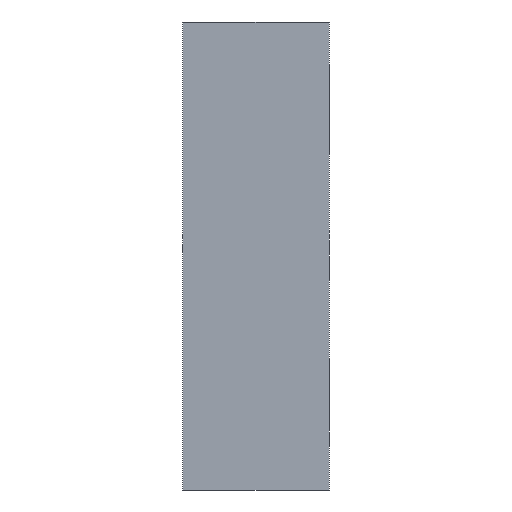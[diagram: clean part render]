
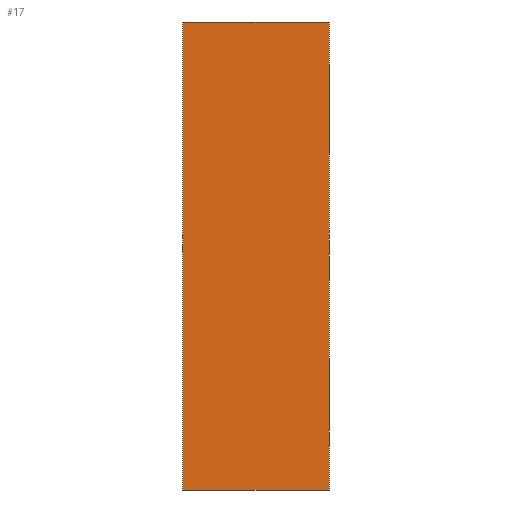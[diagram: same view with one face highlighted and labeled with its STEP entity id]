
A CAD part, left-side view. The second image highlights one B-rep face of the part: STEP entity #17.
In plain terms, the highlighted planar face has unit normal (-1, 0, 0).
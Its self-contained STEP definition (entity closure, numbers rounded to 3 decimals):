
#17 = ADVANCED_FACE('',(#18),#32,.F.);
#18 = FACE_BOUND('',#19,.F.);
#19 = EDGE_LOOP('',(#20,#55,#83,#111));
#20 = ORIENTED_EDGE('',*,*,#21,.F.);
#21 = EDGE_CURVE('',#22,#24,#26,.T.);
#22 = VERTEX_POINT('',#23);
#23 = CARTESIAN_POINT('',(-24.,-10.,-16.));
#24 = VERTEX_POINT('',#25);
#25 = CARTESIAN_POINT('',(-24.,-10.,16.));
#26 = SURFACE_CURVE('',#27,(#31,#43),.PCURVE_S1.);
#27 = LINE('',#28,#29);
#28 = CARTESIAN_POINT('',(-24.,-10.,-16.));
#29 = VECTOR('',#30,1.);
#30 = DIRECTION('',(0.,0.,1.));
#31 = PCURVE('',#32,#37);
#32 = PLANE('',#33);
#33 = AXIS2_PLACEMENT_3D('',#34,#35,#36);
#34 = CARTESIAN_POINT('',(-24.,-10.,-16.));
#35 = DIRECTION('',(1.,0.,0.));
#36 = DIRECTION('',(0.,0.,1.));
#37 = DEFINITIONAL_REPRESENTATION('',(#38),#42);
#38 = LINE('',#39,#40);
#39 = CARTESIAN_POINT('',(0.,0.));
#40 = VECTOR('',#41,1.);
#41 = DIRECTION('',(1.,0.));
#42 = ( GEOMETRIC_REPRESENTATION_CONTEXT(2) 
PARAMETRIC_REPRESENTATION_CONTEXT() REPRESENTATION_CONTEXT('2D SPACE',''
  ) );
#43 = PCURVE('',#44,#49);
#44 = PLANE('',#45);
#45 = AXIS2_PLACEMENT_3D('',#46,#47,#48);
#46 = CARTESIAN_POINT('',(-24.,-10.,-16.));
#47 = DIRECTION('',(0.,1.,0.));
#48 = DIRECTION('',(0.,0.,1.));
#49 = DEFINITIONAL_REPRESENTATION('',(#50),#54);
#50 = LINE('',#51,#52);
#51 = CARTESIAN_POINT('',(0.,0.));
#52 = VECTOR('',#53,1.);
#53 = DIRECTION('',(1.,0.));
#54 = ( GEOMETRIC_REPRESENTATION_CONTEXT(2) 
PARAMETRIC_REPRESENTATION_CONTEXT() REPRESENTATION_CONTEXT('2D SPACE',''
  ) );
#55 = ORIENTED_EDGE('',*,*,#56,.F.);
#56 = EDGE_CURVE('',#57,#22,#59,.T.);
#57 = VERTEX_POINT('',#58);
#58 = CARTESIAN_POINT('',(-24.,0.,-16.));
#59 = SURFACE_CURVE('',#60,(#64,#71),.PCURVE_S1.);
#60 = LINE('',#61,#62);
#61 = CARTESIAN_POINT('',(-24.,0.,-16.));
#62 = VECTOR('',#63,1.);
#63 = DIRECTION('',(0.,-1.,0.));
#64 = PCURVE('',#32,#65);
#65 = DEFINITIONAL_REPRESENTATION('',(#66),#70);
#66 = LINE('',#67,#68);
#67 = CARTESIAN_POINT('',(0.,-10.));
#68 = VECTOR('',#69,1.);
#69 = DIRECTION('',(0.,1.));
#70 = ( GEOMETRIC_REPRESENTATION_CONTEXT(2) 
PARAMETRIC_REPRESENTATION_CONTEXT() REPRESENTATION_CONTEXT('2D SPACE',''
  ) );
#71 = PCURVE('',#72,#77);
#72 = PLANE('',#73);
#73 = AXIS2_PLACEMENT_3D('',#74,#75,#76);
#74 = CARTESIAN_POINT('',(-24.,-10.,-16.));
#75 = DIRECTION('',(0.,0.,1.));
#76 = DIRECTION('',(1.,0.,0.));
#77 = DEFINITIONAL_REPRESENTATION('',(#78),#82);
#78 = LINE('',#79,#80);
#79 = CARTESIAN_POINT('',(0.,10.));
#80 = VECTOR('',#81,1.);
#81 = DIRECTION('',(0.,-1.));
#82 = ( GEOMETRIC_REPRESENTATION_CONTEXT(2) 
PARAMETRIC_REPRESENTATION_CONTEXT() REPRESENTATION_CONTEXT('2D SPACE',''
  ) );
#83 = ORIENTED_EDGE('',*,*,#84,.T.);
#84 = EDGE_CURVE('',#57,#85,#87,.T.);
#85 = VERTEX_POINT('',#86);
#86 = CARTESIAN_POINT('',(-24.,0.,16.));
#87 = SURFACE_CURVE('',#88,(#92,#99),.PCURVE_S1.);
#88 = LINE('',#89,#90);
#89 = CARTESIAN_POINT('',(-24.,0.,-16.));
#90 = VECTOR('',#91,1.);
#91 = DIRECTION('',(0.,0.,1.));
#92 = PCURVE('',#32,#93);
#93 = DEFINITIONAL_REPRESENTATION('',(#94),#98);
#94 = LINE('',#95,#96);
#95 = CARTESIAN_POINT('',(0.,-10.));
#96 = VECTOR('',#97,1.);
#97 = DIRECTION('',(1.,0.));
#98 = ( GEOMETRIC_REPRESENTATION_CONTEXT(2) 
PARAMETRIC_REPRESENTATION_CONTEXT() REPRESENTATION_CONTEXT('2D SPACE',''
  ) );
#99 = PCURVE('',#100,#105);
#100 = PLANE('',#101);
#101 = AXIS2_PLACEMENT_3D('',#102,#103,#104);
#102 = CARTESIAN_POINT('',(-24.,0.,-16.));
#103 = DIRECTION('',(0.,1.,0.));
#104 = DIRECTION('',(0.,0.,1.));
#105 = DEFINITIONAL_REPRESENTATION('',(#106),#110);
#106 = LINE('',#107,#108);
#107 = CARTESIAN_POINT('',(0.,0.));
#108 = VECTOR('',#109,1.);
#109 = DIRECTION('',(1.,0.));
#110 = ( GEOMETRIC_REPRESENTATION_CONTEXT(2) 
PARAMETRIC_REPRESENTATION_CONTEXT() REPRESENTATION_CONTEXT('2D SPACE',''
  ) );
#111 = ORIENTED_EDGE('',*,*,#112,.F.);
#112 = EDGE_CURVE('',#24,#85,#113,.T.);
#113 = SURFACE_CURVE('',#114,(#118,#125),.PCURVE_S1.);
#114 = LINE('',#115,#116);
#115 = CARTESIAN_POINT('',(-24.,-10.,16.));
#116 = VECTOR('',#117,1.);
#117 = DIRECTION('',(0.,1.,0.));
#118 = PCURVE('',#32,#119);
#119 = DEFINITIONAL_REPRESENTATION('',(#120),#124);
#120 = LINE('',#121,#122);
#121 = CARTESIAN_POINT('',(32.,0.));
#122 = VECTOR('',#123,1.);
#123 = DIRECTION('',(0.,-1.));
#124 = ( GEOMETRIC_REPRESENTATION_CONTEXT(2) 
PARAMETRIC_REPRESENTATION_CONTEXT() REPRESENTATION_CONTEXT('2D SPACE',''
  ) );
#125 = PCURVE('',#126,#131);
#126 = PLANE('',#127);
#127 = AXIS2_PLACEMENT_3D('',#128,#129,#130);
#128 = CARTESIAN_POINT('',(-24.,-10.,16.));
#129 = DIRECTION('',(0.,0.,1.));
#130 = DIRECTION('',(1.,0.,0.));
#131 = DEFINITIONAL_REPRESENTATION('',(#132),#136);
#132 = LINE('',#133,#134);
#133 = CARTESIAN_POINT('',(0.,0.));
#134 = VECTOR('',#135,1.);
#135 = DIRECTION('',(0.,1.));
#136 = ( GEOMETRIC_REPRESENTATION_CONTEXT(2) 
PARAMETRIC_REPRESENTATION_CONTEXT() REPRESENTATION_CONTEXT('2D SPACE',''
  ) );
